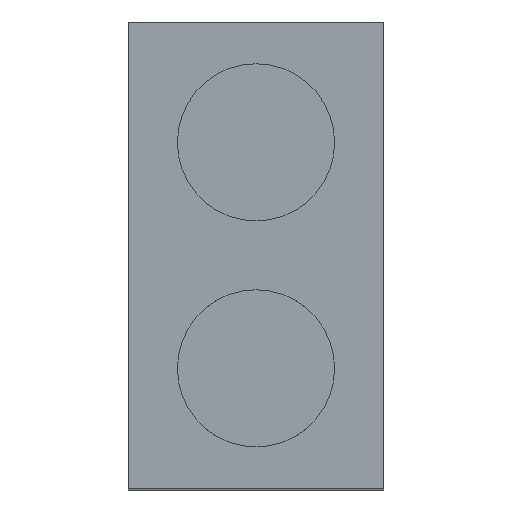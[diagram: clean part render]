
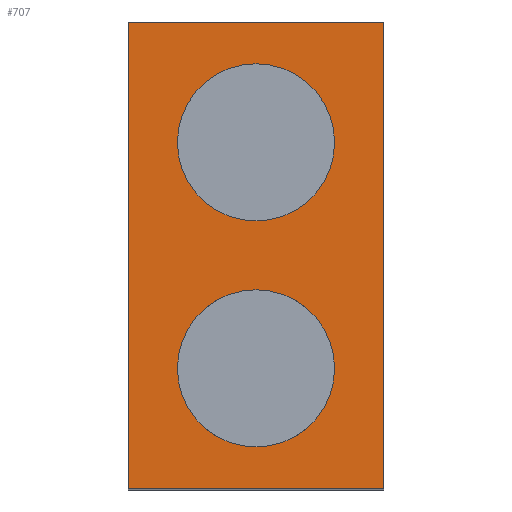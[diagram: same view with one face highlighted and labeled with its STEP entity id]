
A CAD part, top view. The second image highlights one B-rep face of the part: STEP entity #707.
In plain terms, the highlighted planar face has unit normal (0, 0, 1) as drawn and (-1, 0, 0) by its records, which use the part's own axes.
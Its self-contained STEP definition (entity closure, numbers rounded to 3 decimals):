
#48 = VERTEX_POINT ( 'NONE', #196 ) ;
#50 = EDGE_CURVE ( 'NONE', #48, #51, #195, .T. ) ;
#51 = VERTEX_POINT ( 'NONE', #190 ) ;
#53 = VERTEX_POINT ( 'NONE', #189 ) ;
#65 = VERTEX_POINT ( 'NONE', #231 ) ;
#67 = EDGE_CURVE ( 'NONE', #65, #53, #230, .T. ) ;
#189 = CARTESIAN_POINT ( 'NONE',  ( -15., -2.3, 1.6 ) ) ;
#190 = CARTESIAN_POINT ( 'NONE',  ( -15., 2.3, 1.6 ) ) ;
#191 = DIRECTION ( 'NONE',  ( 0., 0., 1. ) ) ;
#192 = DIRECTION ( 'NONE',  ( -1., 0., 0. ) ) ;
#193 = CARTESIAN_POINT ( 'NONE',  ( -15., 2.3, 0. ) ) ;
#194 = AXIS2_PLACEMENT_3D ( 'NONE', #193, #192, #191 ) ;
#195 = CIRCLE ( 'NONE', #194, 1.6 ) ;
#196 = CARTESIAN_POINT ( 'NONE',  ( -15., 2.3, -1.6 ) ) ;
#226 = DIRECTION ( 'NONE',  ( 0., 0., 1. ) ) ;
#227 = DIRECTION ( 'NONE',  ( -1., 0., 0. ) ) ;
#228 = CARTESIAN_POINT ( 'NONE',  ( -15., -2.3, 0. ) ) ;
#229 = AXIS2_PLACEMENT_3D ( 'NONE', #228, #227, #226 ) ;
#230 = CIRCLE ( 'NONE', #229, 1.6 ) ;
#231 = CARTESIAN_POINT ( 'NONE',  ( -15., -2.3, -1.6 ) ) ;
#329 = DIRECTION ( 'NONE',  ( 0., 1., 0. ) ) ;
#330 = VECTOR ( 'NONE', #329, 1000. ) ;
#331 = CARTESIAN_POINT ( 'NONE',  ( -15., 4.75, -2.6 ) ) ;
#332 = LINE ( 'NONE', #331, #330 ) ;
#333 = CARTESIAN_POINT ( 'NONE',  ( -15., -4.75, -2.6 ) ) ;
#357 = DIRECTION ( 'NONE',  ( 0., -1., 0. ) ) ;
#358 = VECTOR ( 'NONE', #357, 1000. ) ;
#359 = CARTESIAN_POINT ( 'NONE',  ( -15., 4.75, 2.6 ) ) ;
#360 = LINE ( 'NONE', #359, #358 ) ;
#361 = CARTESIAN_POINT ( 'NONE',  ( -15., 4.75, 2.6 ) ) ;
#362 = DIRECTION ( 'NONE',  ( 0., 0., 1. ) ) ;
#363 = DIRECTION ( 'NONE',  ( -1., 0., 0. ) ) ;
#364 = CARTESIAN_POINT ( 'NONE',  ( -15., 2.3, 0. ) ) ;
#365 = AXIS2_PLACEMENT_3D ( 'NONE', #364, #363, #362 ) ;
#366 = CIRCLE ( 'NONE', #365, 1.6 ) ;
#373 = DIRECTION ( 'NONE',  ( 0., 0., 1. ) ) ;
#374 = DIRECTION ( 'NONE',  ( -1., 0., 0. ) ) ;
#375 = CARTESIAN_POINT ( 'NONE',  ( -15., -2.3, 0. ) ) ;
#376 = AXIS2_PLACEMENT_3D ( 'NONE', #375, #374, #373 ) ;
#377 = CIRCLE ( 'NONE', #376, 1.6 ) ;
#378 = DIRECTION ( 'NONE',  ( 0., 0., -1. ) ) ;
#379 = DIRECTION ( 'NONE',  ( 1., 0., 0. ) ) ;
#380 = CARTESIAN_POINT ( 'NONE',  ( -15., -4.75, 2.6 ) ) ;
#381 = AXIS2_PLACEMENT_3D ( 'NONE', #380, #379, #378 ) ;
#382 = PLANE ( 'NONE',  #381 ) ;
#383 = FACE_OUTER_BOUND ( 'NONE', #720, .T. ) ;
#384 = FACE_BOUND ( 'NONE', #712, .T. ) ;
#385 = FACE_BOUND ( 'NONE', #708, .T. ) ;
#386 = DIRECTION ( 'NONE',  ( 0., 0., -1. ) ) ;
#387 = VECTOR ( 'NONE', #386, 1000. ) ;
#388 = CARTESIAN_POINT ( 'NONE',  ( -15., -4.75, 2.6 ) ) ;
#389 = LINE ( 'NONE', #388, #387 ) ;
#402 = CARTESIAN_POINT ( 'NONE',  ( -15., 4.75, -2.6 ) ) ;
#403 = DIRECTION ( 'NONE',  ( 0., 0., 1. ) ) ;
#404 = VECTOR ( 'NONE', #403, 1000. ) ;
#405 = CARTESIAN_POINT ( 'NONE',  ( -15., 4.75, 2.6 ) ) ;
#406 = LINE ( 'NONE', #405, #404 ) ;
#421 = CARTESIAN_POINT ( 'NONE',  ( -15., -4.75, 2.6 ) ) ;
#696 = VERTEX_POINT ( 'NONE', #333 ) ;
#698 = EDGE_CURVE ( 'NONE', #696, #734, #332, .T. ) ;
#705 = EDGE_CURVE ( 'NONE', #725, #696, #389, .T. ) ;
#707 = ADVANCED_FACE ( 'NONE', ( #385, #384, #383 ), #382, .F. ) ;
#708 = EDGE_LOOP ( 'NONE', ( #709, #711 ) ) ;
#709 = ORIENTED_EDGE ( 'NONE', *, *, #710, .F. ) ;
#710 = EDGE_CURVE ( 'NONE', #53, #65, #377, .T. ) ;
#711 = ORIENTED_EDGE ( 'NONE', *, *, #67, .F. ) ;
#712 = EDGE_LOOP ( 'NONE', ( #717, #719 ) ) ;
#713 = ORIENTED_EDGE ( 'NONE', *, *, #733, .F. ) ;
#714 = ORIENTED_EDGE ( 'NONE', *, *, #698, .F. ) ;
#715 = ORIENTED_EDGE ( 'NONE', *, *, #705, .F. ) ;
#717 = ORIENTED_EDGE ( 'NONE', *, *, #718, .F. ) ;
#718 = EDGE_CURVE ( 'NONE', #51, #48, #366, .T. ) ;
#719 = ORIENTED_EDGE ( 'NONE', *, *, #50, .F. ) ;
#720 = EDGE_LOOP ( 'NONE', ( #721, #713, #714, #715 ) ) ;
#721 = ORIENTED_EDGE ( 'NONE', *, *, #724, .F. ) ;
#722 = VERTEX_POINT ( 'NONE', #361 ) ;
#724 = EDGE_CURVE ( 'NONE', #722, #725, #360, .T. ) ;
#725 = VERTEX_POINT ( 'NONE', #421 ) ;
#733 = EDGE_CURVE ( 'NONE', #734, #722, #406, .T. ) ;
#734 = VERTEX_POINT ( 'NONE', #402 ) ;
